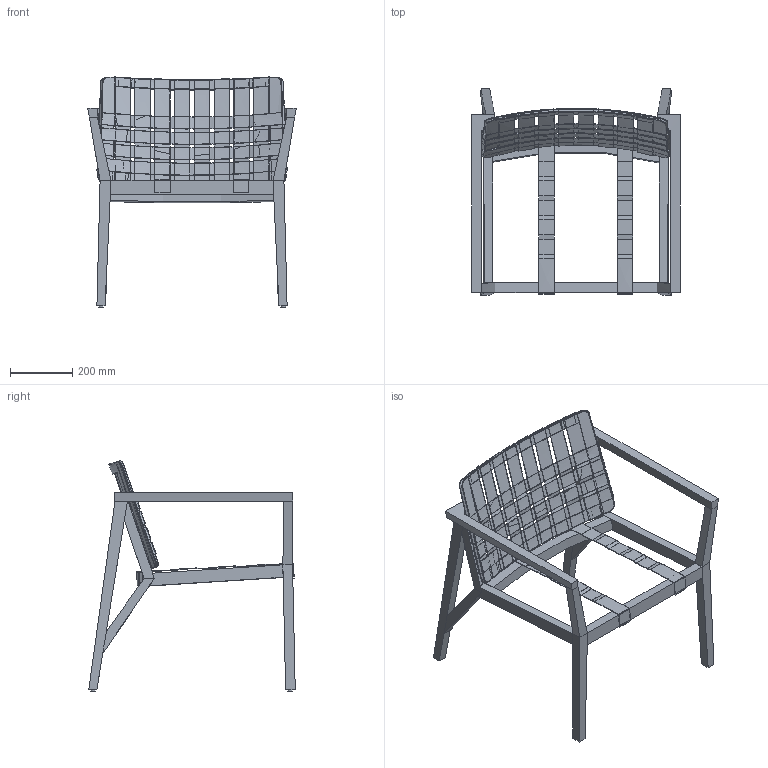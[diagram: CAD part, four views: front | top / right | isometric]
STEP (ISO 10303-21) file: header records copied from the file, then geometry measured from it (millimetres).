
FILE_DESCRIPTION(/* description */ (''),/* implementation_level */ '2;1');
FILE_NAME(/* name */ '243CC',/* time_stamp */ '2021-02-17T10:04:20+01:00',/* author */ (''),/* organization */ (''),/* preprocessor_version */ 'ST-DEVELOPER v15',/* originating_system */ '',/* authorisation */ '');
FILE_SCHEMA (('AUTOMOTIVE_DESIGN_CC2'));
Length unit declared in the file: millimetre
Products named in the file (1): Document
Bounding box: 670 x 663.79 x 739.92 mm (x, y, z)
Volume: 1512105.2 mm3; surface area: 1799486.3 mm2
Topology: 5 solids, 108 shells, 1392 faces, 3221 edges, 1819 vertices
Faces by surface type: bspline 1187, plane 205
Entity records: 69728 total; most frequent: CARTESIAN_POINT 48520, ORIENTED_EDGE 5915, EDGE_CURVE 3216, B_SPLINE_CURVE_WITH_KNOTS 3119, VERTEX_POINT 1819, ADVANCED_FACE 1391, FACE_OUTER_BOUND 1391, EDGE_LOOP 1391
